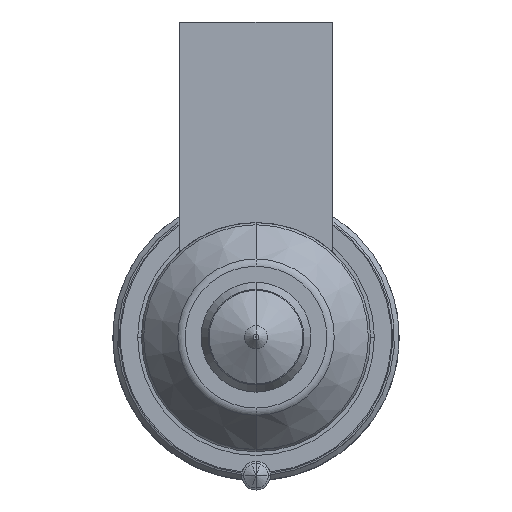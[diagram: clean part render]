
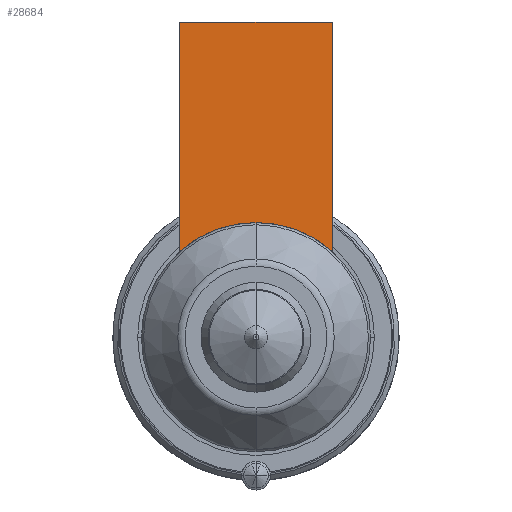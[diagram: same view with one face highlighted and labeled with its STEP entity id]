
A CAD part, front view. The second image highlights one B-rep face of the part: STEP entity #28684.
In plain terms, the highlighted planar face has unit normal (0, -1, 0).
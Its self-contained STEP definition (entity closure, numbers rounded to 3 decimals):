
#27865=DIRECTION('',(0.,0.,-1.));
#27866=VECTOR('',#27865,24.056);
#27867=CARTESIAN_POINT('',(-8.,-56.,33.));
#27868=LINE('',#27867,#27866);
#27880=CARTESIAN_POINT('',(0.,-56.,0.));
#27881=DIRECTION('',(0.,-1.,0.));
#27882=DIRECTION('',(0.,0.,1.));
#27883=AXIS2_PLACEMENT_3D('',#27880,#27881,#27882);
#27888=DIRECTION('',(1.,0.,0.));
#27889=VECTOR('',#27888,16.);
#27890=CARTESIAN_POINT('',(-8.,-56.,33.));
#27891=LINE('',#27890,#27889);
#27895=CARTESIAN_POINT('',(0.,-56.,0.));
#27896=DIRECTION('',(0.,-1.,0.));
#27897=DIRECTION('',(0.667,0.,0.745));
#27898=AXIS2_PLACEMENT_3D('',#27895,#27896,#27897);
#28048=DIRECTION('',(0.,0.,-1.));
#28049=VECTOR('',#28048,24.056);
#28050=CARTESIAN_POINT('',(8.,-56.,33.));
#28051=LINE('',#28050,#28049);
#28599=CARTESIAN_POINT('',(-8.,-56.,33.));
#28600=VERTEX_POINT('',#28599);
#28605=CARTESIAN_POINT('',(8.,-56.,33.));
#28606=VERTEX_POINT('',#28605);
#28608=CARTESIAN_POINT('',(-8.,-56.,8.944));
#28610=VERTEX_POINT('',#28608);
#28612=CARTESIAN_POINT('',(8.,-56.,8.944));
#28614=VERTEX_POINT('',#28612);
#28617=CARTESIAN_POINT('',(0.,-56.,12.));
#28618=VERTEX_POINT('',#28617);
#28669=CARTESIAN_POINT('',(-8.,-56.,33.));
#28670=DIRECTION('',(0.,-1.,0.));
#28671=DIRECTION('',(0.,0.,-1.));
#28672=AXIS2_PLACEMENT_3D('',#28669,#28670,#28671);
#28673=PLANE('',#28672);
#28674=ORIENTED_EDGE('',*,*,#28648,.T.);
#28675=ORIENTED_EDGE('',*,*,#28637,.F.);
#28677=ORIENTED_EDGE('',*,*,#28676,.T.);
#28679=ORIENTED_EDGE('',*,*,#28678,.T.);
#28681=ORIENTED_EDGE('',*,*,#28680,.T.);
#28682=EDGE_LOOP('',(#28674,#28675,#28677,#28679,#28681));
#28683=FACE_OUTER_BOUND('',#28682,.F.);
#28684=ADVANCED_FACE('',(#28683),#28673,.T.);
#27884=CIRCLE('',#27883,12.);
#27899=CIRCLE('',#27898,12.);
#28637=EDGE_CURVE('',#28600,#28610,#27868,.T.);
#28648=EDGE_CURVE('',#28618,#28610,#27884,.T.);
#28676=EDGE_CURVE('',#28600,#28606,#27891,.T.);
#28678=EDGE_CURVE('',#28606,#28614,#28051,.T.);
#28680=EDGE_CURVE('',#28614,#28618,#27899,.T.);
